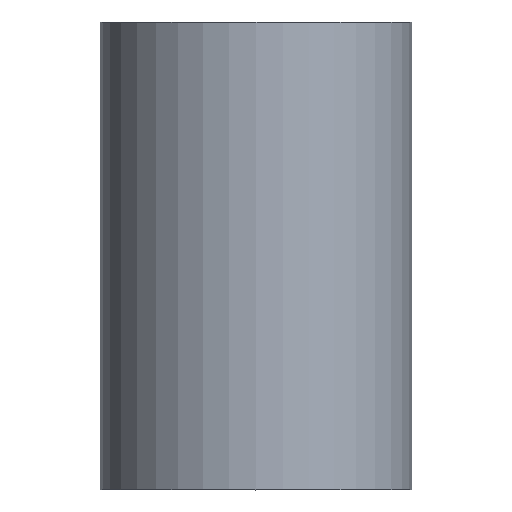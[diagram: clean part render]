
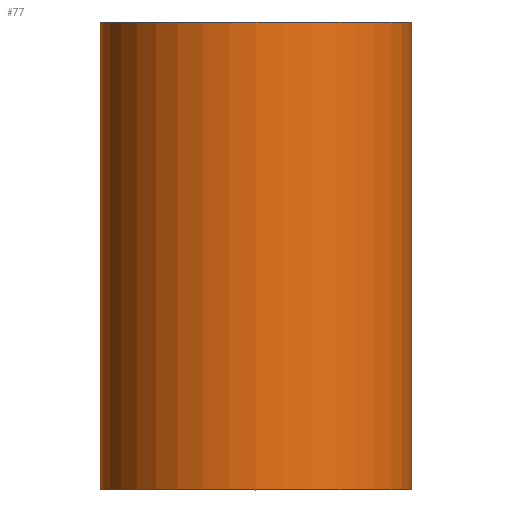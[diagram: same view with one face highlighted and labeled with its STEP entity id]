
A CAD part, top view. The second image highlights one B-rep face of the part: STEP entity #77.
In plain terms, the highlighted cylindrical face has radius 41.281 mm (diameter 82.563 mm), a partial arc.
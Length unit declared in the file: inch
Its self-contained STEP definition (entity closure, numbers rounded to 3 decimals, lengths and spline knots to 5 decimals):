
#41 = ORIENTED_EDGE ( 'NONE', *, *, #75, .T. ) ;
#64 = VERTEX_POINT ( 'NONE', #256 ) ;
#65 = ORIENTED_EDGE ( 'NONE', *, *, #68, .F. ) ;
#67 = EDGE_CURVE ( 'NONE', #64, #73, #216, .T. ) ;
#68 = EDGE_CURVE ( 'NONE', #80, #64, #217, .T. ) ;
#70 = VERTEX_POINT ( 'NONE', #231 ) ;
#71 = ORIENTED_EDGE ( 'NONE', *, *, #72, .T. ) ;
#72 = EDGE_CURVE ( 'NONE', #70, #73, #230, .T. ) ;
#73 = VERTEX_POINT ( 'NONE', #226 ) ;
#74 = ORIENTED_EDGE ( 'NONE', *, *, #67, .F. ) ;
#75 = EDGE_CURVE ( 'NONE', #80, #70, #225, .T. ) ;
#77 = ADVANCED_FACE ( 'NONE', ( #277 ), #276, .T. ) ;
#78 = EDGE_LOOP ( 'NONE', ( #41, #71, #74, #65 ) ) ;
#80 = VERTEX_POINT ( 'NONE', #274 ) ;
#212 = DIRECTION ( 'NONE',  ( 1., 0., 0. ) ) ;
#213 = DIRECTION ( 'NONE',  ( 0., -1., 0. ) ) ;
#214 = CARTESIAN_POINT ( 'NONE',  ( 0., 0., 0. ) ) ;
#215 = AXIS2_PLACEMENT_3D ( 'NONE', #214, #213, #212 ) ;
#216 = CIRCLE ( 'NONE', #215, 1.62525 ) ;
#217 = LINE ( 'NONE', #234, #233 ) ;
#221 = DIRECTION ( 'NONE',  ( 1., 0., 0. ) ) ;
#222 = DIRECTION ( 'NONE',  ( 0., -1., 0. ) ) ;
#223 = CARTESIAN_POINT ( 'NONE',  ( 0., 4.875, 0. ) ) ;
#224 = AXIS2_PLACEMENT_3D ( 'NONE', #223, #222, #221 ) ;
#225 = CIRCLE ( 'NONE', #224, 1.62525 ) ;
#226 = CARTESIAN_POINT ( 'NONE',  ( -1.62525, 0., 0. ) ) ;
#227 = DIRECTION ( 'NONE',  ( 0., -1., 0. ) ) ;
#228 = VECTOR ( 'NONE', #227, 39.37008 ) ;
#229 = CARTESIAN_POINT ( 'NONE',  ( -1.62525, -39.37008, 0. ) ) ;
#230 = LINE ( 'NONE', #229, #228 ) ;
#231 = CARTESIAN_POINT ( 'NONE',  ( -1.62525, 4.875, 0. ) ) ;
#232 = DIRECTION ( 'NONE',  ( 0., -1., 0. ) ) ;
#233 = VECTOR ( 'NONE', #232, 39.37008 ) ;
#234 = CARTESIAN_POINT ( 'NONE',  ( 1.62525, -39.37008, 0. ) ) ;
#256 = CARTESIAN_POINT ( 'NONE',  ( 1.62525, 0., 0. ) ) ;
#271 = DIRECTION ( 'NONE',  ( 1., 0., 0. ) ) ;
#272 = DIRECTION ( 'NONE',  ( 0., -1., 0. ) ) ;
#273 = AXIS2_PLACEMENT_3D ( 'NONE', #275, #272, #271 ) ;
#274 = CARTESIAN_POINT ( 'NONE',  ( 1.62525, 4.875, 0. ) ) ;
#275 = CARTESIAN_POINT ( 'NONE',  ( 0., -39.37008, 0. ) ) ;
#276 = CYLINDRICAL_SURFACE ( 'NONE', #273, 1.62525 ) ;
#277 = FACE_OUTER_BOUND ( 'NONE', #78, .T. ) ;
